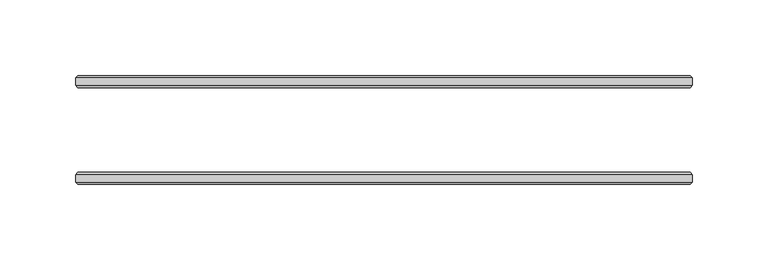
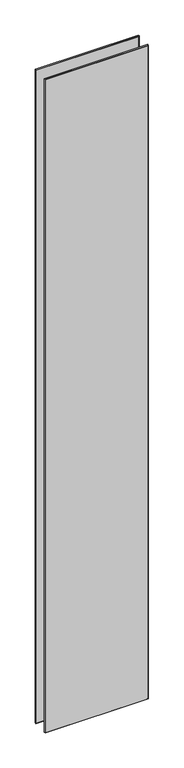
"""IFC4 building model written with IfcOpenShell, lengths in millimetres: plate geometry, 3-AMG-2-Панель двойной витраж 8, 10 : Смещение 32 Толщина 8mm."""

from ifc_helpers import new_model, si_unit, origin, place, context, project, spatial, faceted_brep, source, transform, mapped, element, save


def plate_e89273ef(model_context):
    return source(origin(), model_context, "Body", "Brep", [
        faceted_brep([(206.4688281, -34.4961653, 2722.8), (206.4688281, -29.5038347, 2722.8), (-201.4688281, -29.5038347, 2722.8), (-201.4688281, -34.4961653, 2722.8), (206.4688281, -29.5038347, -7.0), (206.4688281, -34.4961653, -7.0), (-201.4688281, -34.4961653, -7.0), (-201.4688281, -29.5038347, -7.0), (-199.9649934, -28.0, 2721.2961653), (204.9649934, -28.0, 2721.2961653), (204.9649934, -28.0, -5.5039422), (-199.9649934, -28.0, -5.5039422), (204.9649934, -36.0, 2721.2961653), (-199.9649934, -36.0, 2721.2961653), (-199.9649934, -36.0, -5.4961653), (204.9649934, -36.0, -5.4961653)], [[[0, 1, 2, 3]], [[4, 5, 6, 7]], [[8, 9, 10, 11]], [[3, 2, 7, 6]], [[12, 13, 14, 15]], [[1, 0, 5, 4]], [[1, 4, 10, 9]], [[5, 0, 12, 15]], [[0, 3, 13, 12]], [[2, 1, 9, 8]], [[7, 2, 8, 11]], [[3, 6, 14, 13]], [[6, 5, 15, 14]], [[4, 7, 11, 10]]]),
        faceted_brep([(206.4688281, 29.5038347, 2722.8), (206.4688281, 34.4961653, 2722.8), (-201.4688281, 34.4961653, 2722.8), (-201.4688281, 29.5038347, 2722.8), (206.4688281, 34.4961653, -7.0), (206.4688281, 29.5038347, -7.0), (-201.4688281, 29.5038347, -7.0), (-201.4688281, 34.4961653, -7.0), (-199.9649934, 36.0, 2721.2961653), (204.9649934, 36.0, 2721.2961653), (204.9649934, 36.0, -5.5039422), (-199.9649934, 36.0, -5.5039422), (204.9649934, 28.0, 2721.2961653), (-199.9649934, 28.0, 2721.2961653), (-199.9649934, 28.0, -5.4961653), (204.9649934, 28.0, -5.4961653)], [[[0, 1, 2, 3]], [[4, 5, 6, 7]], [[8, 9, 10, 11]], [[3, 2, 7, 6]], [[12, 13, 14, 15]], [[1, 0, 5, 4]], [[1, 4, 10, 9]], [[5, 0, 12, 15]], [[7, 2, 8, 11]], [[3, 6, 14, 13]], [[0, 3, 13, 12]], [[2, 1, 9, 8]], [[6, 5, 15, 14]], [[4, 7, 11, 10]]]),
    ])


if __name__ == "__main__":
    model = new_model("IFC4")
    model_context = context("Model", 3, world=origin())
    ifc_project = project(units=[si_unit("LENGTHUNIT", "METRE", prefix="MILLI")], contexts=[model_context])
    site = spatial("IfcSite", under=ifc_project)
    building = spatial("IfcBuilding", under=site)
    placement = place(None, origin())
    plate_shape = plate_e89273ef(model_context)
    element("IfcPlate", 1, ObjectType="3-AMG-2-Панель двойной витраж 8, 10 : Смещение 32 Толщина 8mm", at=placement, inside=building, context=model_context, shape_type="MappedRepresentation", body=[
        mapped(plate_shape, transform((0.0, 0.0, 0.0), x_axis=(1.0, 0.0, 0.0), y_axis=(0.0, 1.0, 0.0), z_axis=(0.0, 0.0, 1.0))),
    ])
    save(model, "model.ifc")
